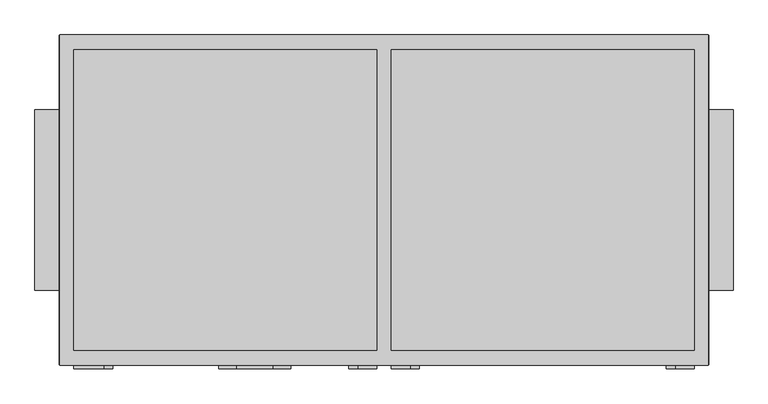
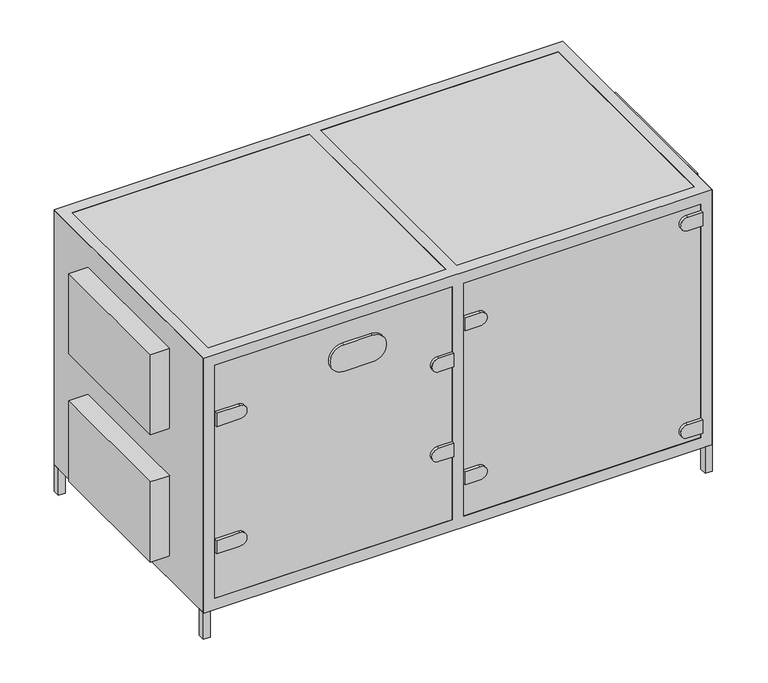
"""IFC4 building model written with IfcOpenShell, lengths in millimetres: proxy geometry, AVS 2200...3800-S-RC(RG)-R : AVS 2900-S-RG-R."""

from ifc_helpers import new_model, si_unit, point, frame, frame_2d, origin, origin_with_axes, place, context, project, spatial, polyline, circle_curve, trimmed, segment, composite_curve, outline, extrude, faceted_brep, source, transform, mapped, element, save


def mechanical_equipment_31ed4147(model_context):
    return source(origin(), model_context, "Body", "SolidModel", [
        extrude(outline(polyline([(875.0, 457.0), (900.0, 457.0), (900.0, 432.0), (875.0, 432.0), (875.0, 457.0)])), origin_with_axes(), (0.0, 0.0, 1.0), 100.0),
        extrude(outline(polyline([(875.0, -457.0), (875.0, -432.0), (900.0, -432.0), (900.0, -457.0), (875.0, -457.0)])), origin_with_axes(), (0.0, 0.0, 1.0), 100.0),
        extrude(outline(polyline([(-900.0, 432.0), (-900.0, 457.0), (-875.0, 457.0), (-875.0, 432.0), (-900.0, 432.0)])), origin_with_axes(), (0.0, 0.0, 1.0), 100.0),
        extrude(outline(polyline([(-900.0, -432.0), (-875.0, -432.0), (-875.0, -457.0), (-900.0, -457.0), (-900.0, -432.0)])), origin_with_axes(), (0.0, 0.0, 1.0), 100.0),
        faceted_brep([(899.0, 458.0, 1053.0), (-899.0, 458.0, 1053.0), (-899.0, -458.0, 1053.0), (899.0, -458.0, 1053.0), (860.0, 417.0, 1053.0), (860.0, -417.0, 1053.0), (20.0, -417.0, 1053.0), (20.0, 417.0, 1053.0), (-860.0, 417.0, 1053.0), (-20.0, 417.0, 1053.0), (-20.0, -417.0, 1053.0), (-860.0, -417.0, 1053.0), (899.0, 458.0, 99.0), (899.0, -458.0, 99.0), (-899.0, -458.0, 99.0), (-899.0, 458.0, 99.0), (860.0, -417.0, 99.0), (860.0, 417.0, 99.0), (20.0, 417.0, 99.0), (20.0, -417.0, 99.0), (-20.0, 417.0, 99.0), (-860.0, 417.0, 99.0), (-860.0, -417.0, 99.0), (-20.0, -417.0, 99.0), (-20.0, 458.0, 1012.0), (-860.0, 458.0, 1012.0), (-860.0, 458.0, 140.0), (-20.0, 458.0, 140.0), (860.0, 458.0, 140.0), (860.0, 458.0, 1012.0), (20.0, 458.0, 1012.0), (20.0, 458.0, 140.0), (-899.0, -417.0, 1012.0), (-899.0, -417.0, 140.0), (-899.0, 417.0, 140.0), (-899.0, 417.0, 1012.0), (-860.0, -458.0, 1012.0), (-20.0, -458.0, 1012.0), (-20.0, -458.0, 140.0), (-860.0, -458.0, 140.0), (860.0, -458.0, 1012.0), (860.0, -458.0, 140.0), (20.0, -458.0, 140.0), (20.0, -458.0, 1012.0), (899.0, -417.0, 140.0), (899.0, -417.0, 1012.0), (899.0, 417.0, 1012.0), (899.0, 417.0, 140.0), (-860.0, 417.0, 1012.0), (-20.0, 417.0, 1012.0), (-20.0, 417.0, 140.0), (-860.0, 417.0, 140.0), (-20.0, -417.0, 1012.0), (-860.0, -417.0, 1012.0), (-860.0, -417.0, 140.0), (-20.0, -417.0, 140.0), (860.0, 417.0, 1012.0), (860.0, -417.0, 1012.0), (860.0, -417.0, 140.0), (860.0, 417.0, 140.0), (20.0, 417.0, 1012.0), (20.0, -417.0, 1012.0), (20.0, -417.0, 140.0), (20.0, 417.0, 140.0)], [[[0, 1, 2, 3], [4, 5, 6, 7], [8, 9, 10, 11]], [[12, 13, 14, 15], [16, 17, 18, 19], [20, 21, 22, 23]], [[1, 0, 12, 15], [24, 25, 26, 27], [28, 29, 30, 31]], [[2, 1, 15, 14], [32, 33, 34, 35]], [[3, 2, 14, 13], [36, 37, 38, 39], [40, 41, 42, 43]], [[0, 3, 13, 12], [44, 45, 46, 47]], [[9, 8, 48, 49]], [[21, 20, 50, 51]], [[11, 10, 52, 53]], [[23, 22, 54, 55]], [[5, 4, 56, 57]], [[17, 16, 58, 59]], [[40, 57, 58, 41]], [[56, 29, 28, 59]], [[35, 48, 53, 32]], [[45, 57, 56, 46]], [[49, 60, 61, 52]], [[51, 34, 33, 54]], [[47, 59, 58, 44]], [[55, 62, 63, 50]], [[36, 53, 52, 37]], [[24, 49, 48, 25]], [[54, 39, 38, 55]], [[50, 27, 26, 51]], [[32, 53, 54, 33]], [[52, 61, 62, 55]], [[44, 58, 57, 45]], [[48, 35, 34, 51]], [[60, 49, 50, 63]], [[59, 47, 46, 56]], [[8, 11, 53, 48]], [[22, 21, 51, 54]], [[53, 36, 39, 54]], [[25, 48, 51, 26]], [[10, 9, 49, 52]], [[20, 23, 55, 50]], [[37, 52, 55, 38]], [[49, 24, 27, 50]], [[4, 7, 60, 56]], [[18, 17, 59, 63]], [[7, 6, 61, 60]], [[19, 18, 63, 62]], [[30, 60, 63, 31]], [[61, 43, 42, 62]], [[57, 40, 43, 61]], [[29, 56, 60, 30]], [[41, 58, 62, 42]], [[59, 28, 31, 63]], [[6, 5, 57, 61]], [[16, 19, 62, 58]]]),
        extrude(outline(polyline([(-900.0, 457.0), (900.0, 457.0), (900.0, -457.0), (-900.0, -457.0), (-900.0, 457.0)])), frame((0.0, 0.0, 100.0), z_axis=(0.0, 0.0, 1.0), x_axis=(1.0, 0.0, 0.0)), (0.0, 0.0, 1.0), 952.0),
        extrude(outline(composite_curve([segment(polyline([(839.0, -777.2895396), (839.0, -860.0), (789.0, -860.0), (789.0, -777.2895396)]), True, "CONTINUOUS"), segment(trimmed(circle_curve(frame_2d((814.0, -777.2895396)), 25.0), [point((789.0, -777.2895396))], [point((839.0, -777.2895396))], False, "CARTESIAN"), True, "CONTINUOUS")], self_intersect=False)), frame((0.0, -468.0, 0.0), z_axis=(0.0, 1.0, 0.0), x_axis=(0.0, 0.0, 1.0)), (0.0, 0.0, 1.0), 11.0),
        extrude(outline(composite_curve([segment(polyline([(363.0, -777.2895396), (363.0, -860.0), (313.0, -860.0), (313.0, -777.2895396)]), True, "CONTINUOUS"), segment(trimmed(circle_curve(frame_2d((338.0, -777.2895396)), 25.0), [point((313.0, -777.2895396))], [point((363.0, -777.2895396))], False, "CARTESIAN"), True, "CONTINUOUS")], self_intersect=False)), frame((0.0, -468.0, 0.0), z_axis=(0.0, 1.0, 0.0), x_axis=(0.0, 0.0, 1.0)), (0.0, 0.0, 1.0), 11.0),
        extrude(outline(composite_curve([segment(trimmed(circle_curve(frame_2d((744.0, -72.7104604)), 25.0), [point((769.0, -72.7104604))], [point((719.0, -72.7104604))], False, "CARTESIAN"), True, "CONTINUOUS"), segment(polyline([(719.0, -72.7104604), (719.0, -20.0), (769.0, -20.0), (769.0, -72.7104604)]), True, "CONTINUOUS")], self_intersect=False)), frame((0.0, -468.0, 0.0), z_axis=(0.0, 1.0, 0.0), x_axis=(0.0, 0.0, 1.0)), (0.0, 0.0, 1.0), 11.0),
        extrude(outline(composite_curve([segment(polyline([(383.0, -72.7104604), (383.0, -20.0), (433.0, -20.0), (433.0, -72.7104604)]), True, "CONTINUOUS"), segment(trimmed(circle_curve(frame_2d((408.0, -72.7104604)), 25.0), [point((433.0, -72.7104604))], [point((383.0, -72.7104604))], False, "CARTESIAN"), True, "CONTINUOUS")], self_intersect=False)), frame((0.0, -468.0, 0.0), z_axis=(0.0, 1.0, 0.0), x_axis=(0.0, 0.0, 1.0)), (0.0, 0.0, 1.0), 11.0),
        extrude(outline(composite_curve([segment(trimmed(circle_curve(frame_2d((964.0, 807.2895396)), 25.0), [point((989.0, 807.2895396))], [point((939.0, 807.2895396))], False, "CARTESIAN"), True, "CONTINUOUS"), segment(polyline([(939.0, 807.2895396), (939.0, 860.0), (989.0, 860.0), (989.0, 807.2895396)]), True, "CONTINUOUS")], self_intersect=False)), frame((0.0, -468.0, 0.0), z_axis=(0.0, 1.0, 0.0), x_axis=(0.0, 0.0, 1.0)), (0.0, 0.0, 1.0), 11.0),
        extrude(outline(composite_curve([segment(polyline([(163.0, 807.2895396), (163.0, 860.0), (213.0, 860.0), (213.0, 807.2895396)]), True, "CONTINUOUS"), segment(trimmed(circle_curve(frame_2d((188.0, 807.2895396)), 25.0), [point((213.0, 807.2895396))], [point((163.0, 807.2895396))], False, "CARTESIAN"), True, "CONTINUOUS")], self_intersect=False)), frame((0.0, -468.0, 0.0), z_axis=(0.0, 1.0, 0.0), x_axis=(0.0, 0.0, 1.0)), (0.0, 0.0, 1.0), 11.0),
        extrude(outline(composite_curve([segment(polyline([(889.0, 72.7104604), (889.0, 20.0), (839.0, 20.0), (839.0, 72.7104604)]), True, "CONTINUOUS"), segment(trimmed(circle_curve(frame_2d((864.0, 72.7104604)), 25.0), [point((839.0, 72.7104604))], [point((889.0, 72.7104604))], False, "CARTESIAN"), True, "CONTINUOUS")], self_intersect=False)), frame((0.0, -468.0, 0.0), z_axis=(0.0, 1.0, 0.0), x_axis=(0.0, 0.0, 1.0)), (0.0, 0.0, 1.0), 11.0),
        extrude(outline(composite_curve([segment(trimmed(circle_curve(frame_2d((288.0, 72.7104604)), 25.0), [point((263.0, 72.7104604))], [point((313.0, 72.7104604))], False, "CARTESIAN"), True, "CONTINUOUS"), segment(polyline([(313.0, 72.7104604), (313.0, 20.0), (263.0, 20.0), (263.0, 72.7104604)]), True, "CONTINUOUS")], self_intersect=False)), frame((0.0, -468.0, 0.0), z_axis=(0.0, 1.0, 0.0), x_axis=(0.0, 0.0, 1.0)), (0.0, 0.0, 1.0), 11.0),
        extrude(outline(composite_curve([segment(polyline([(937.9531077, -308.4249776), (937.9531077, -408.4249776)]), True, "CONTINUOUS"), segment(trimmed(circle_curve(frame_2d((887.9531077, -408.4249776)), 50.0), [point((937.9531077, -408.4249776))], [point((837.9531077, -408.4249776))], False, "CARTESIAN"), True, "CONTINUOUS"), segment(polyline([(837.9531077, -408.4249776), (837.9531077, -308.4249776)]), True, "CONTINUOUS"), segment(trimmed(circle_curve(frame_2d((887.9531077, -308.4249776)), 50.0), [point((837.9531077, -308.4249776))], [point((937.9531077, -308.4249776))], False, "CARTESIAN"), True, "CONTINUOUS")], self_intersect=False)), frame((0.0, -468.0, 0.0), z_axis=(0.0, 1.0, 0.0), x_axis=(0.0, 0.0, 1.0)), (0.0, 0.0, 1.0), 11.0),
        extrude(outline(polyline([(-968.0, -250.0), (-968.0, 250.0), (-900.0, 250.0), (-900.0, -250.0), (-968.0, -250.0)])), frame((0.0, 0.0, 664.0), z_axis=(0.0, 0.0, 1.0), x_axis=(1.0, 0.0, 0.0)), (0.0, 0.0, 1.0), 300.0),
        extrude(outline(polyline([(-968.0, -250.0), (-968.0, 250.0), (-900.0, 250.0), (-900.0, -250.0), (-968.0, -250.0)])), frame((0.0, 0.0, 188.0), z_axis=(0.0, 0.0, 1.0), x_axis=(1.0, 0.0, 0.0)), (0.0, 0.0, 1.0), 300.0),
        extrude(outline(polyline([(968.0, 250.0), (968.0, -250.0), (900.0, -250.0), (900.0, 250.0), (968.0, 250.0)])), frame((0.0, 0.0, 664.0), z_axis=(0.0, 0.0, 1.0), x_axis=(1.0, 0.0, 0.0)), (0.0, 0.0, 1.0), 300.0),
        extrude(outline(polyline([(968.0, 250.0), (968.0, -250.0), (900.0, -250.0), (900.0, 250.0), (968.0, 250.0)])), frame((0.0, 0.0, 188.0), z_axis=(0.0, 0.0, 1.0), x_axis=(1.0, 0.0, 0.0)), (0.0, 0.0, 1.0), 300.0),
    ])


if __name__ == "__main__":
    model = new_model("IFC4")
    model_context = context("Model", 3, world=origin())
    ifc_project = project(units=[si_unit("LENGTHUNIT", "METRE", prefix="MILLI")], contexts=[model_context])
    site = spatial("IfcSite", under=ifc_project)
    building = spatial("IfcBuilding", under=site)
    placement = place(None, origin())
    mechanical_equipment_shape = mechanical_equipment_31ed4147(model_context)
    element("IfcBuildingElementProxy", 1, Name="AVS 2200...3800-S-RC(RG)-R : AVS 2900-S-RG-R", ObjectType="AVS 2200...3800-S-RC(RG)-R : AVS 2900-S-RG-R", at=placement, inside=building, context=model_context, shape_type="MappedRepresentation", body=[
        mapped(mechanical_equipment_shape, transform((0.0, 0.0, 0.0), x_axis=(1.0, 0.0, 0.0), y_axis=(0.0, 1.0, 0.0), z_axis=(0.0, 0.0, 1.0))),
    ])
    save(model, "model.ifc")
